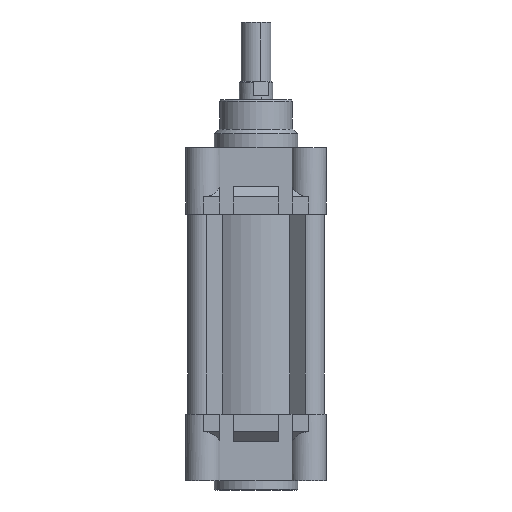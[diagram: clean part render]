
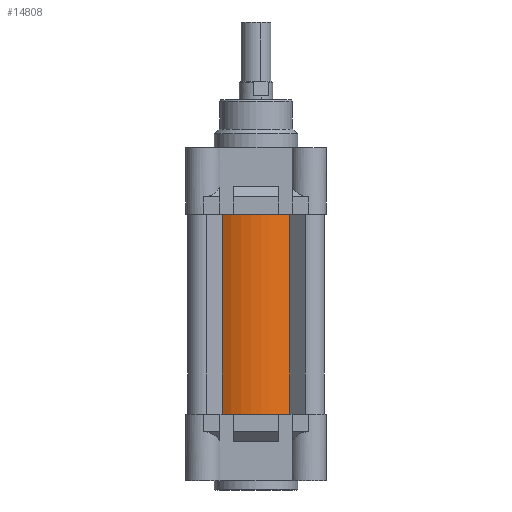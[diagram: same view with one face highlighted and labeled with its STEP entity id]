
A CAD part, front view. The second image highlights one B-rep face of the part: STEP entity #14808.
In plain terms, the highlighted cylindrical face has radius 34 mm (diameter 68 mm), a partial arc.
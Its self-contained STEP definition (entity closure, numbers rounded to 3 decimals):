
#511 = VECTOR ( 'NONE', #7800, 1000. ) ;
#1949 = CYLINDRICAL_SURFACE ( 'NONE', #2960, 34. ) ;
#2305 = VERTEX_POINT ( 'NONE', #12226 ) ;
#2540 = CARTESIAN_POINT ( 'NONE',  ( 37., 37., 0. ) ) ;
#2807 = CARTESIAN_POINT ( 'NONE',  ( 55.319, 8.357, 108. ) ) ;
#2960 = AXIS2_PLACEMENT_3D ( 'NONE', #17017, #6985, #18671 ) ;
#3347 = CARTESIAN_POINT ( 'NONE',  ( 18.681, 8.357, 108. ) ) ;
#3636 = CARTESIAN_POINT ( 'NONE',  ( 55.319, 8.357, 0. ) ) ;
#4142 = DIRECTION ( 'NONE',  ( 0., 0., 1. ) ) ;
#4235 = DIRECTION ( 'NONE',  ( 1., 0., 0. ) ) ;
#5129 = ORIENTED_EDGE ( 'NONE', *, *, #20565, .T. ) ;
#5994 = EDGE_CURVE ( 'NONE', #19795, #9050, #12535, .T. ) ;
#6892 = CARTESIAN_POINT ( 'NONE',  ( 18.681, 8.357, 108. ) ) ;
#6985 = DIRECTION ( 'NONE',  ( 0., 0., -1. ) ) ;
#7615 = AXIS2_PLACEMENT_3D ( 'NONE', #14117, #19157, #4235 ) ;
#7707 = FACE_OUTER_BOUND ( 'NONE', #16175, .T. ) ;
#7800 = DIRECTION ( 'NONE',  ( 0., 0., -1. ) ) ;
#8144 = LINE ( 'NONE', #3347, #21260 ) ;
#8322 = AXIS2_PLACEMENT_3D ( 'NONE', #2540, #4142, #15870 ) ;
#9050 = VERTEX_POINT ( 'NONE', #10111 ) ;
#9645 = EDGE_CURVE ( 'NONE', #19795, #2305, #8144, .T. ) ;
#10111 = CARTESIAN_POINT ( 'NONE',  ( 55.319, 8.357, 108. ) ) ;
#11850 = DIRECTION ( 'NONE',  ( 0., 0., -1. ) ) ;
#12226 = CARTESIAN_POINT ( 'NONE',  ( 18.681, 8.357, 0. ) ) ;
#12535 = CIRCLE ( 'NONE', #7615, 34. ) ;
#13874 = LINE ( 'NONE', #2807, #511 ) ;
#14117 = CARTESIAN_POINT ( 'NONE',  ( 37., 37., 108. ) ) ;
#14808 = ADVANCED_FACE ( 'NONE', ( #7707 ), #1949, .T. ) ;
#15870 = DIRECTION ( 'NONE',  ( 1., 0., 0. ) ) ;
#16015 = CIRCLE ( 'NONE', #8322, 34. ) ;
#16175 = EDGE_LOOP ( 'NONE', ( #5129, #19360, #18583, #21161 ) ) ;
#17017 = CARTESIAN_POINT ( 'NONE',  ( 37., 37., 108. ) ) ;
#18583 = ORIENTED_EDGE ( 'NONE', *, *, #5994, .F. ) ;
#18671 = DIRECTION ( 'NONE',  ( -1., 0., 0. ) ) ;
#18700 = VERTEX_POINT ( 'NONE', #3636 ) ;
#19157 = DIRECTION ( 'NONE',  ( 0., 0., 1. ) ) ;
#19360 = ORIENTED_EDGE ( 'NONE', *, *, #20673, .F. ) ;
#19795 = VERTEX_POINT ( 'NONE', #6892 ) ;
#20565 = EDGE_CURVE ( 'NONE', #2305, #18700, #16015, .T. ) ;
#20673 = EDGE_CURVE ( 'NONE', #9050, #18700, #13874, .T. ) ;
#21161 = ORIENTED_EDGE ( 'NONE', *, *, #9645, .T. ) ;
#21260 = VECTOR ( 'NONE', #11850, 1000. ) ;
